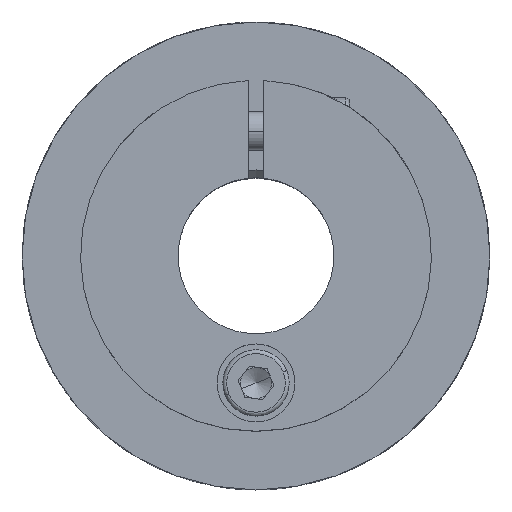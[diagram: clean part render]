
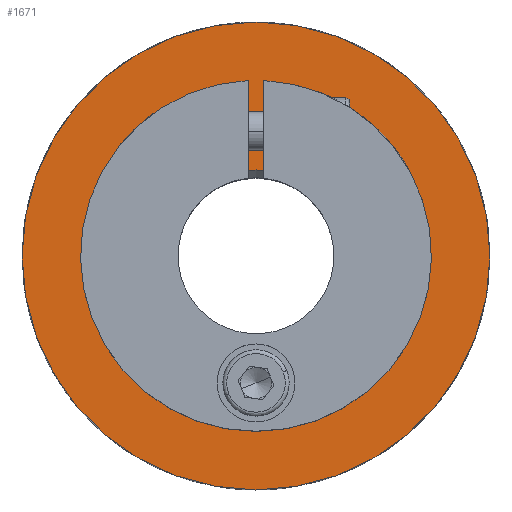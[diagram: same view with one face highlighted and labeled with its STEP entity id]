
A CAD part, top view. The second image highlights one B-rep face of the part: STEP entity #1671.
In plain terms, the highlighted planar face has unit normal (0, 0, 1).
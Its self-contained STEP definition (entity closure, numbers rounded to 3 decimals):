
#94 = CIRCLE ( 'NONE', #3849, 2.1 ) ;
#190 = CARTESIAN_POINT ( 'NONE',  ( 0., 0., 0. ) ) ;
#375 = CARTESIAN_POINT ( 'NONE',  ( 0., -16.3, 0. ) ) ;
#438 = DIRECTION ( 'NONE',  ( 0., 0., -1. ) ) ;
#479 = EDGE_CURVE ( 'NONE', #1697, #1537, #3405, .T. ) ;
#530 = ORIENTED_EDGE ( 'NONE', *, *, #549, .F. ) ;
#549 = EDGE_CURVE ( 'NONE', #1508, #3116, #94, .T. ) ;
#586 = ORIENTED_EDGE ( 'NONE', *, *, #2144, .F. ) ;
#694 = DIRECTION ( 'NONE',  ( 0., 0., 1. ) ) ;
#885 = PLANE ( 'NONE',  #2164 ) ;
#967 = EDGE_LOOP ( 'NONE', ( #2117, #530 ) ) ;
#994 = FACE_BOUND ( 'NONE', #1621, .T. ) ;
#1015 = VERTEX_POINT ( 'NONE', #1263 ) ;
#1043 = AXIS2_PLACEMENT_3D ( 'NONE', #1783, #694, #4657 ) ;
#1153 = AXIS2_PLACEMENT_3D ( 'NONE', #2441, #438, #1209 ) ;
#1183 = VERTEX_POINT ( 'NONE', #4727 ) ;
#1209 = DIRECTION ( 'NONE',  ( 1., 0., 0. ) ) ;
#1235 = AXIS2_PLACEMENT_3D ( 'NONE', #4773, #2866, #4459 ) ;
#1263 = CARTESIAN_POINT ( 'NONE',  ( -30., 0., 0. ) ) ;
#1292 = DIRECTION ( 'NONE',  ( 1., 0., 0. ) ) ;
#1329 = ORIENTED_EDGE ( 'NONE', *, *, #479, .F. ) ;
#1358 = DIRECTION ( 'NONE',  ( -1., 0., 0. ) ) ;
#1386 = FACE_BOUND ( 'NONE', #967, .T. ) ;
#1410 = CARTESIAN_POINT ( 'NONE',  ( 2.1, -16.3, 0. ) ) ;
#1488 = EDGE_LOOP ( 'NONE', ( #586, #3197 ) ) ;
#1508 = VERTEX_POINT ( 'NONE', #4686 ) ;
#1519 = CIRCLE ( 'NONE', #4484, 30. ) ;
#1537 = VERTEX_POINT ( 'NONE', #3700 ) ;
#1600 = EDGE_CURVE ( 'NONE', #1015, #1183, #4016, .T. ) ;
#1618 = DIRECTION ( 'NONE',  ( 1., 0., 0. ) ) ;
#1621 = EDGE_LOOP ( 'NONE', ( #1329, #4820 ) ) ;
#1671 = ADVANCED_FACE ( 'NONE', ( #3785, #994, #1386 ), #885, .F. ) ;
#1697 = VERTEX_POINT ( 'NONE', #4118 ) ;
#1783 = CARTESIAN_POINT ( 'NONE',  ( 0., 0., 0. ) ) ;
#2117 = ORIENTED_EDGE ( 'NONE', *, *, #2949, .F. ) ;
#2144 = EDGE_CURVE ( 'NONE', #1183, #1015, #1519, .T. ) ;
#2164 = AXIS2_PLACEMENT_3D ( 'NONE', #3027, #2604, #1358 ) ;
#2362 = DIRECTION ( 'NONE',  ( 0., 0., 1. ) ) ;
#2441 = CARTESIAN_POINT ( 'NONE',  ( 0., 0., 0. ) ) ;
#2604 = DIRECTION ( 'NONE',  ( 0., 0., -1. ) ) ;
#2757 = CARTESIAN_POINT ( 'NONE',  ( 0., 0., 0. ) ) ;
#2866 = DIRECTION ( 'NONE',  ( 0., 0., 1. ) ) ;
#2949 = EDGE_CURVE ( 'NONE', #3116, #1508, #3271, .T. ) ;
#3027 = CARTESIAN_POINT ( 'NONE',  ( 0., 10.025, 0. ) ) ;
#3116 = VERTEX_POINT ( 'NONE', #1410 ) ;
#3123 = CIRCLE ( 'NONE', #4037, 11.025 ) ;
#3197 = ORIENTED_EDGE ( 'NONE', *, *, #1600, .F. ) ;
#3271 = CIRCLE ( 'NONE', #1235, 2.1 ) ;
#3318 = DIRECTION ( 'NONE',  ( 0., 0., -1. ) ) ;
#3405 = CIRCLE ( 'NONE', #1043, 11.025 ) ;
#3700 = CARTESIAN_POINT ( 'NONE',  ( -11.025, 0., 0. ) ) ;
#3785 = FACE_OUTER_BOUND ( 'NONE', #1488, .T. ) ;
#3792 = EDGE_CURVE ( 'NONE', #1537, #1697, #3123, .T. ) ;
#3849 = AXIS2_PLACEMENT_3D ( 'NONE', #375, #4450, #1618 ) ;
#3968 = DIRECTION ( 'NONE',  ( 1., 0., 0. ) ) ;
#4016 = CIRCLE ( 'NONE', #1153, 30. ) ;
#4037 = AXIS2_PLACEMENT_3D ( 'NONE', #2757, #2362, #3968 ) ;
#4118 = CARTESIAN_POINT ( 'NONE',  ( 11.025, 0., 0. ) ) ;
#4450 = DIRECTION ( 'NONE',  ( 0., 0., 1. ) ) ;
#4459 = DIRECTION ( 'NONE',  ( 1., 0., 0. ) ) ;
#4484 = AXIS2_PLACEMENT_3D ( 'NONE', #190, #3318, #1292 ) ;
#4657 = DIRECTION ( 'NONE',  ( 1., 0., 0. ) ) ;
#4686 = CARTESIAN_POINT ( 'NONE',  ( -2.1, -16.3, 0. ) ) ;
#4727 = CARTESIAN_POINT ( 'NONE',  ( 30., 0., 0. ) ) ;
#4773 = CARTESIAN_POINT ( 'NONE',  ( 0., -16.3, 0. ) ) ;
#4820 = ORIENTED_EDGE ( 'NONE', *, *, #3792, .F. ) ;
